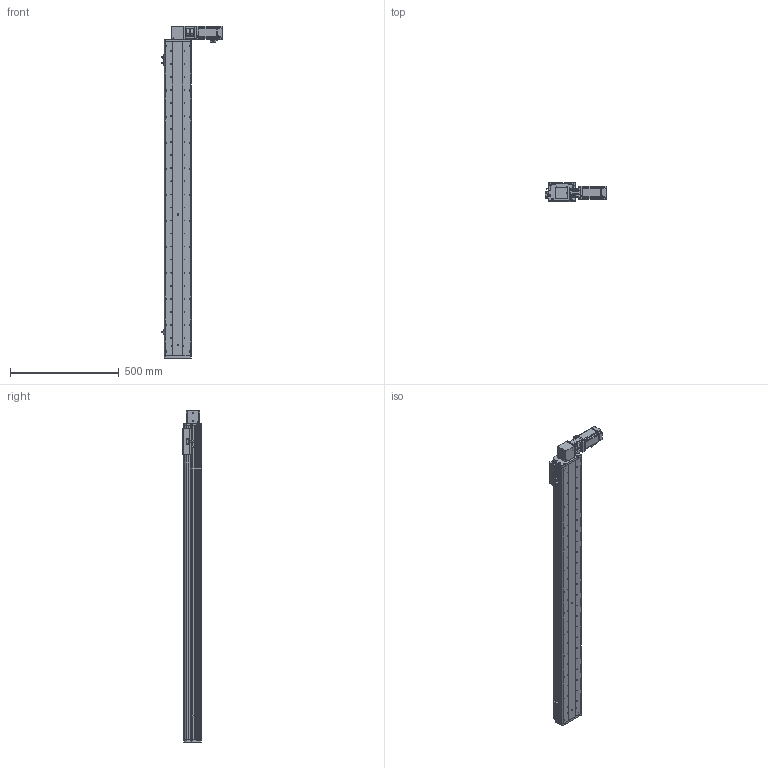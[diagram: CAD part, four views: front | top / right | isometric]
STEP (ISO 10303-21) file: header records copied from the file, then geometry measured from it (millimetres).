
FILE_DESCRIPTION (( 'STEP AP214' ), '1' );
FILE_NAME ('KSD125B-S1250-MRT-CM.STEP', '2017-10-21T07:08:41', ( '微软用户' ), ( '微软中国' ), 'SwSTEP 2.0', 'SolidWorks 2014', '' );
FILE_SCHEMA (( 'AUTOMOTIVE_DESIGN' ));
Length unit declared in the file: millimetre
Products named in the file (16): KSD125B-S1250-MRT-CM; 100宽马达安装板同步带左; KSD125模组1250行程同步带-防尘盖; 125模组1250行程同步带-底板; MHMD042G1CA_2_03; KSD125模组同步带-防撞垫2; CS-34X32-10X14; 100遵鎮湛假蚾啣1 ; 覜茼え68遵圉猾敕; U倰嫖萇假蚾璃; U倰嫖萇EEㄜSX672; KSD125模组同步带-防撞垫1; 100宽安装板同步带带电机座400W,86; 前端板-125宽模组同步带; 125模组同步带-尾端板1; KSD125模组同步带-滑动座1
Assembly tree (19 placements, depth 2):
  KSD125B-S1250-MRT-CM
    KSD125模组同步带-滑动座1
    125模组同步带-尾端板1
    前端板-125宽模组同步带
    100宽安装板同步带带电机座400W,86
    KSD125模组同步带-防撞垫1
    U倰嫖萇EEㄜSX672  x3
    U倰嫖萇假蚾璃  x3
    覜茼え68遵圉猾敕
    100遵鎮湛假蚾啣1 
    CS-34X32-10X14
    KSD125模组同步带-防撞垫2
    MHMD042G1CA_2_03
    125模组1250行程同步带-底板
    KSD125模组1250行程同步带-防尘盖
    100宽马达安装板同步带左
Bounding box: 282.7 x 86 x 1527 mm (x, y, z)
Volume: 4577467.3 mm3; surface area: 1497688.7 mm2
Topology: 18 solids, 21 shells, 1750 faces, 5026 edges, 3316 vertices
Faces by surface type: cylinder 937, plane 710, cone 81, bspline 22
Entity records: 61926 total; most frequent: CARTESIAN_POINT 12476, DIRECTION 9077, ORIENTED_EDGE 8572, EDGE_CURVE 4364, AXIS2_PLACEMENT_3D 3393, VERTEX_POINT 2908, VECTOR 2291, LINE 2291
